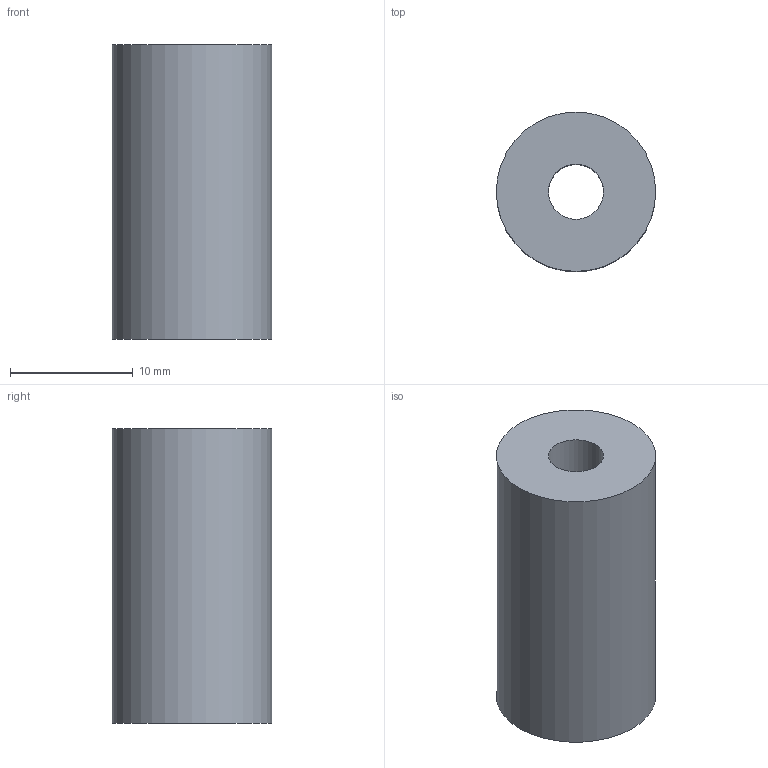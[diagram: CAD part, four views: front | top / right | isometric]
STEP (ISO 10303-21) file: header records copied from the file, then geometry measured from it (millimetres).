
FILE_DESCRIPTION(('Open CASCADE Model'),'2;1');
FILE_NAME('Open CASCADE Shape Model','2026-10-26T17:58:53',('Author'),( 'Open CASCADE'),'Open CASCADE STEP processor 7.9','Open CASCADE 7.9' ,'Unknown');
FILE_SCHEMA(('AUTOMOTIVE_DESIGN { 1 0 10303 214 1 1 1 1 }'));
Length unit declared in the file: millimetre
Products named in the file (1): Open CASCADE STEP translator 7.9 21
Bounding box: 13 x 13 x 24 mm (x, y, z)
Volume: 2803.9 mm3; surface area: 1553.1 mm2
Topology: 1 solids, 1 shells, 4 faces, 6 edges, 4 vertices
Faces by surface type: cylinder 2, plane 2
Full cylindrical faces by diameter (mm): 4.5 x1, 13 x1
Entity records: 186 total; most frequent: DIRECTION 32, CARTESIAN_POINT 27, ORIENTED_EDGE 12, PCURVE 12, DEFINITIONAL_REPRESENTATION 12, LINE 10, VECTOR 10, AXIS2_PLACEMENT_3D 9
